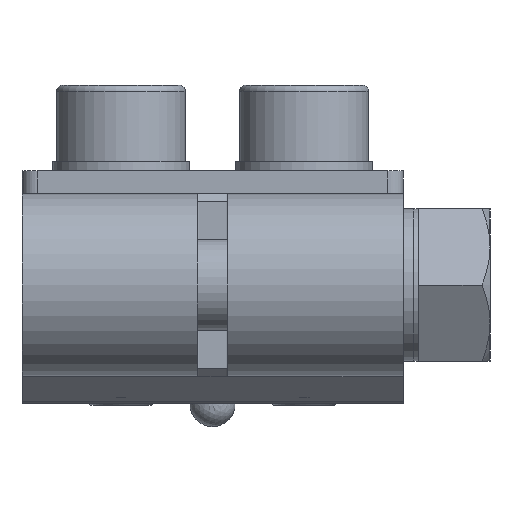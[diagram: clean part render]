
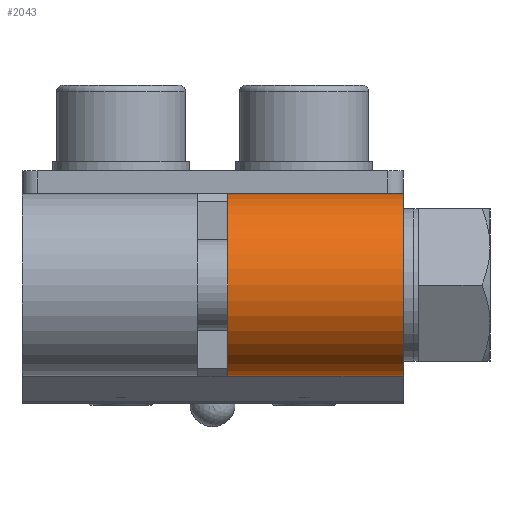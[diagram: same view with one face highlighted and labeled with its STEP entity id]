
A CAD part, left-side view. The second image highlights one B-rep face of the part: STEP entity #2043.
In plain terms, the highlighted cylindrical face has radius 6 mm (diameter 12 mm), a partial arc.
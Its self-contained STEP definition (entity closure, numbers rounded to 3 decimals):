
#80=CYLINDRICAL_SURFACE('',#2267,6.);
#167=LINE('',#3152,#332);
#172=LINE('',#3178,#337);
#332=VECTOR('',#2489,10.);
#337=VECTOR('',#2508,10.);
#576=FACE_OUTER_BOUND('',#707,.T.);
#707=EDGE_LOOP('',(#1547,#1548,#1549,#1550));
#863=CIRCLE('',#2248,6.);
#871=CIRCLE('',#2259,6.);
#978=VERTEX_POINT('',#3149);
#979=VERTEX_POINT('',#3151);
#986=VERTEX_POINT('',#3175);
#987=VERTEX_POINT('',#3177);
#1175=EDGE_CURVE('',#979,#978,#167,.T.);
#1186=EDGE_CURVE('',#987,#986,#172,.T.);
#1201=EDGE_CURVE('',#986,#979,#863,.T.);
#1221=EDGE_CURVE('',#978,#987,#871,.T.);
#1547=ORIENTED_EDGE('',*,*,#1221,.T.);
#1548=ORIENTED_EDGE('',*,*,#1186,.T.);
#1549=ORIENTED_EDGE('',*,*,#1201,.T.);
#1550=ORIENTED_EDGE('',*,*,#1175,.T.);
#2043=ADVANCED_FACE('',(#576),#80,.T.);
#2248=AXIS2_PLACEMENT_3D('',#3207,#2531,#2532);
#2259=AXIS2_PLACEMENT_3D('',#3245,#2565,#2566);
#2267=AXIS2_PLACEMENT_3D('',#3262,#2589,#2590);
#2489=DIRECTION('',(0.,-1.,0.));
#2508=DIRECTION('',(0.,1.,0.));
#2531=DIRECTION('center_axis',(0.,-1.,0.));
#2532=DIRECTION('ref_axis',(-0.707,0.,-0.707));
#2565=DIRECTION('center_axis',(0.,1.,0.));
#2566=DIRECTION('ref_axis',(-0.707,0.,0.707));
#2589=DIRECTION('center_axis',(0.,1.,0.));
#2590=DIRECTION('ref_axis',(-0.707,0.,0.707));
#3149=CARTESIAN_POINT('',(-15.,-12.5,0.));
#3151=CARTESIAN_POINT('',(-15.,-1.,0.));
#3152=CARTESIAN_POINT('',(-15.,-6.25,0.));
#3175=CARTESIAN_POINT('',(-15.,-1.,12.));
#3177=CARTESIAN_POINT('',(-15.,-12.5,12.));
#3178=CARTESIAN_POINT('',(-15.,-6.25,12.));
#3207=CARTESIAN_POINT('Origin',(-15.,-1.,6.));
#3245=CARTESIAN_POINT('Origin',(-15.,-12.5,6.));
#3262=CARTESIAN_POINT('Origin',(-15.,-6.25,6.));
